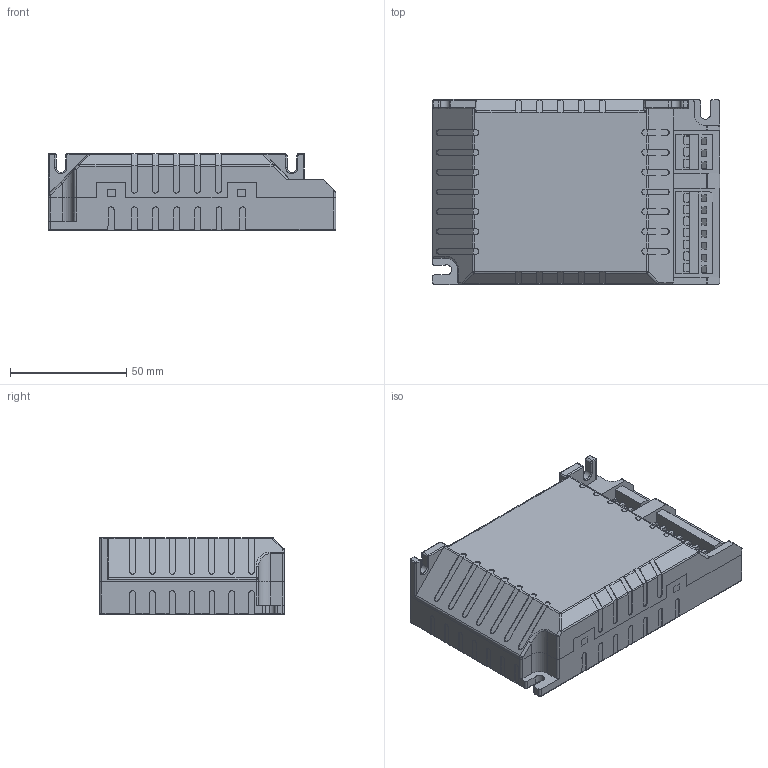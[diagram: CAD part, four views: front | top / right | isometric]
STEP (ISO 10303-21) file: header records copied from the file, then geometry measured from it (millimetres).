
FILE_DESCRIPTION(('OneSpaceDesigner STEP Export'),'2;1');
FILE_NAME('c:/translate/STEP/188202_K3.stp','2006-06-14T11:03:59',(''),(''),'OneSpace Designer STEP processor for AP214 (Solid Model)','OneSpace Designer 13.20A 18-Aug-2005 (C) CoCreate Software GmbH','');
FILE_SCHEMA(('AUTOMOTIVE_DESIGN { 1 0 10303 214 1 1 1 1 }'));
Length unit declared in the file: millimetre
Products named in the file (1): casing_K3
Bounding box: 123.4 x 79.4 x 33 mm (x, y, z)
Volume: 277292.3 mm3; surface area: 34161.1 mm2
Topology: 1 solids, 1 shells, 736 faces, 2052 edges, 1334 vertices
Faces by surface type: plane 437, cylinder 221, bspline 33, extrusion 26, torus 19
Entity records: 28665 total; most frequent: CARTESIAN_POINT 9392, ORIENTED_EDGE 4096, DIRECTION 3424, EDGE_CURVE 2048, VECTOR 1372, LINE 1346, VERTEX_POINT 1334, AXIS2_PLACEMENT_3D 1026
